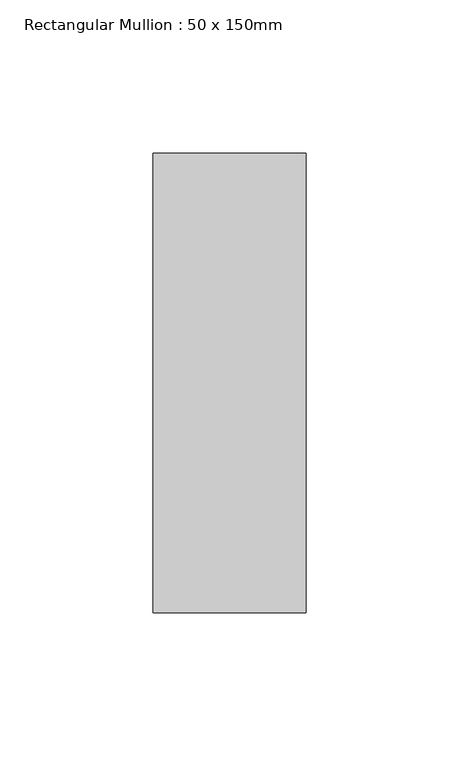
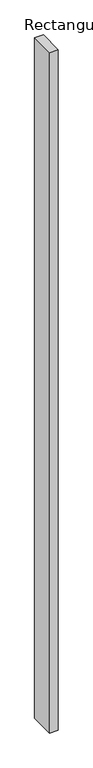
"""IFC4 building model written with IfcOpenShell, lengths in millimetres: member geometry, Rectangular Mullion : 50 x 150mm."""

from ifc_helpers import new_model, si_unit, frame, origin, place, context, project, spatial, polyline, outline, extrude, source, transform, mapped, element, save


def rectangular_mullion_50_x_150mm_8786dd09(model_context):
    return source(origin(), model_context, "Body", "SweptSolid", [
        extrude(outline(polyline([(25.0, 75.0), (25.0, -75.0), (-25.0, -75.0), (-25.0, 75.0), (25.0, 75.0)])), frame((0.0, 0.0, -4185.0), z_axis=(0.0, 0.0, 1.0), x_axis=(1.0, 0.0, 0.0)), (0.0, 0.0, 1.0), 4185.0),
    ])


if __name__ == "__main__":
    model = new_model("IFC4")
    model_context = context("Model", 3, world=origin())
    ifc_project = project(units=[si_unit("LENGTHUNIT", "METRE", prefix="MILLI")], contexts=[model_context])
    site = spatial("IfcSite", under=ifc_project)
    building = spatial("IfcBuilding", under=site)
    placement = place(None, origin())
    rectangular_mullion_50_x_150mm_shape = rectangular_mullion_50_x_150mm_8786dd09(model_context)
    element("IfcMember", 1, ObjectType="Rectangular Mullion : 50 x 150mm", at=placement, inside=building, context=model_context, shape_type="MappedRepresentation", body=[
        mapped(rectangular_mullion_50_x_150mm_shape, transform((0.0, 0.0, 0.0), x_axis=(1.0, 0.0, 0.0), y_axis=(0.0, 1.0, 0.0), z_axis=(0.0, 0.0, 1.0))),
    ])
    save(model, "model.ifc")
